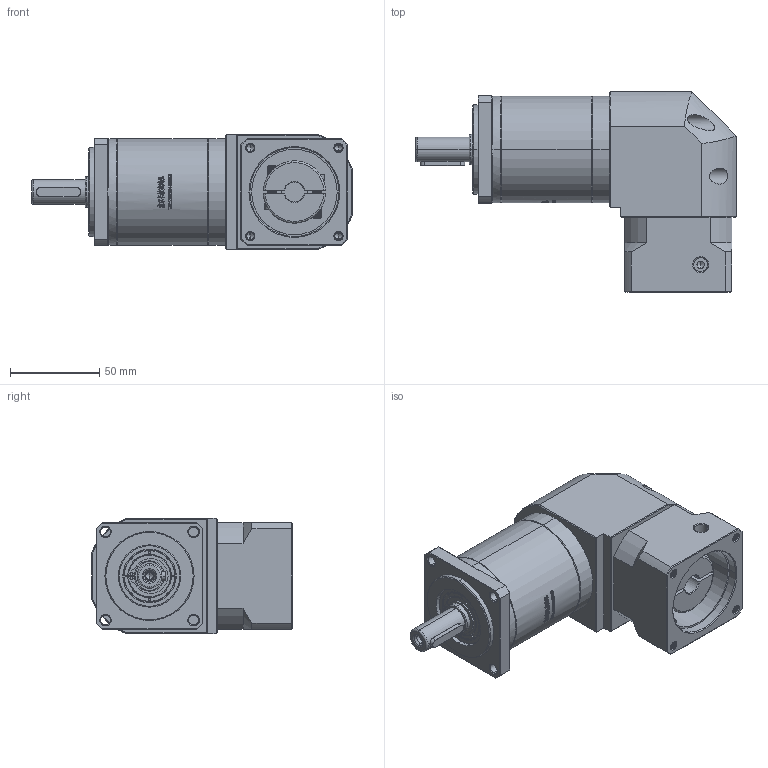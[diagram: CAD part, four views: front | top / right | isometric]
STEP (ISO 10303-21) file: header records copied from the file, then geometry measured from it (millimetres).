
FILE_DESCRIPTION (( 'STEP AP214' ), '1' );
FILE_NAME ('ZFR60-D14-L2-11-50-70-M5.STEP', '2022-04-20T08:49:54', ( '' ), ( 'Microsoft' ), 'SwSTEP 2.0', 'SolidWorks 2016', '' );
FILE_SCHEMA (( 'AUTOMOTIVE_DESIGN' ));
Length unit declared in the file: millimetre
Products named in the file (1): ZFR60-D14-L2-11-50-70-M5
Bounding box: 180 x 112.7 x 65 mm (x, y, z)
Volume: 586489.3 mm3; surface area: 82171.9 mm2
Topology: 5 solids, 6 shells, 2692 faces, 7344 edges, 4789 vertices
Faces by surface type: plane 1397, bspline 579, cylinder 402, cone 288, torus 26
Entity records: 149120 total; most frequent: CARTESIAN_POINT 56972, ORIENTED_EDGE 14644, DIRECTION 10548, EDGE_CURVE 7322, VERTEX_POINT 4789, LINE 4396, VECTOR 4396, AXIS2_PLACEMENT_3D 3076
